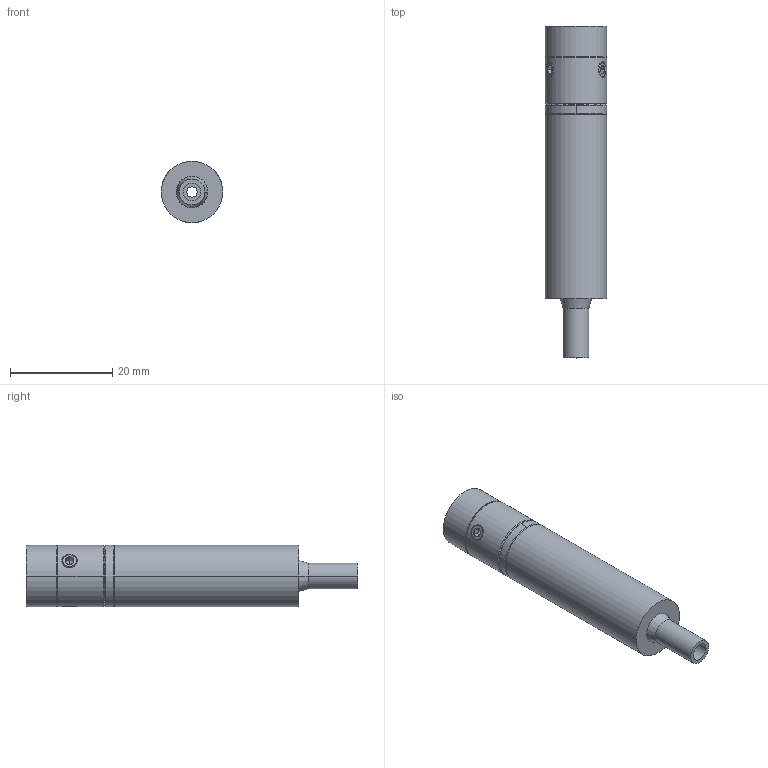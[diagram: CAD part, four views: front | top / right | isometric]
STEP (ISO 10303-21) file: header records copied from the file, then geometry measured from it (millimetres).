
FILE_DESCRIPTION((''),'2;1');
FILE_NAME('OM-12A_ASM','2020-11-04T',('Administrator'),(''),'CREO PARAMETRIC BY PTC INC, 2015290','CREO PARAMETRIC BY PTC INC, 2015290','');
FILE_SCHEMA(('CONFIG_CONTROL_DESIGN'));
Length unit declared in the file: millimetre
Products named in the file (8): OM-12A_A1; OM-12A_A4; OM-12A_A2; OM-12A_A3; OM-12A_A5; OM-12A-A6; M3X3_HS; OM-12A_ASM
Assembly tree (9 placements, depth 2):
  OM-12A_ASM
    OM-12A_A1
    OM-12A_A4
    OM-12A_A2
    OM-12A_A3
    OM-12A_A5
    OM-12A-A6
    M3X3_HS  x3
Bounding box: 12 x 64.85 x 12 mm (x, y, z)
Volume: 3266.8 mm3; surface area: 5828.7 mm2
Topology: 9 solids, 9 shells, 369 faces, 888 edges, 543 vertices
Faces by surface type: cylinder 144, bspline 92, plane 73, cone 58, torus 2
Entity records: 29056 total; most frequent: CARTESIAN_POINT 22307, ORIENTED_EDGE 1580, DIRECTION 995, EDGE_CURVE 790, VERTEX_POINT 501, B_SPLINE_CURVE_WITH_KNOTS 413, AXIS2_PLACEMENT_3D 380, EDGE_LOOP 341
